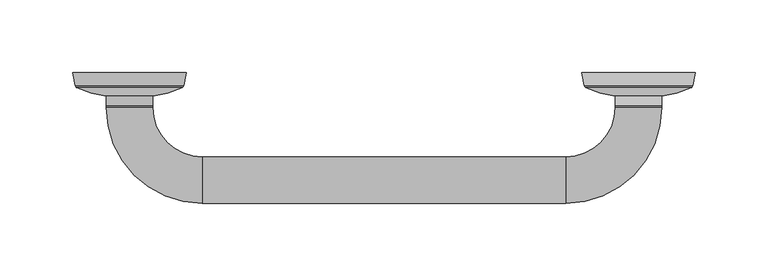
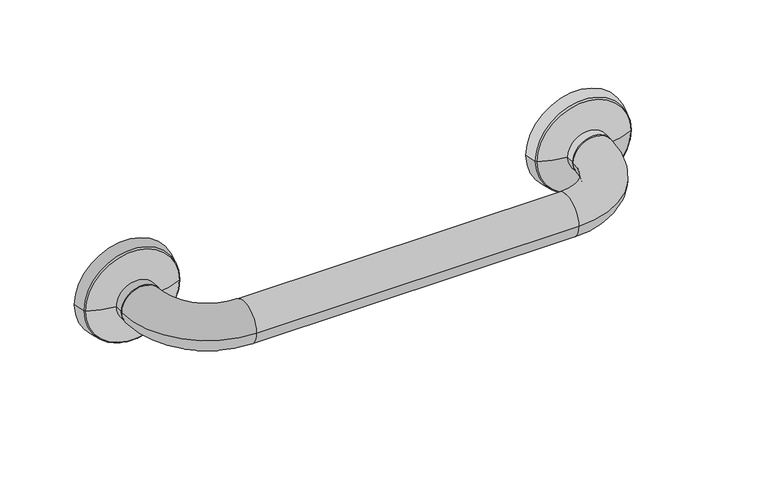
"""IFC4 building model written with IfcOpenShell, lengths in millimetres: proxy geometry, Grab Rail_Metlam_Straight_Horizontal : 382long x 90d x 32h (ML328SS)."""

from ifc_helpers import new_model, si_unit, point, frame, origin, place, context, project, spatial, polyline, circle_curve, ellipse_curve, trimmed, source, transform, mapped, element, save
from ifc_brep_helpers import plane_surface, cylinder_surface, revolved_surface, advanced_brep


def specialty_equipment_1621b8f0(model_context):
    return source(origin(), model_context, "Body", "AdvancedBrep", [
        advanced_brep(
        [(89.0, -58.0, 784.0), (55.0, -24.0, 784.0), (23.0, -24.0, 784.0), (89.0, -90.0, 784.0), (339.0, -90.0, 784.0), (339.0, -58.0, 784.0), (405.0, -24.0, 784.0), (373.0, -24.0, 784.0), (55.0, -23.0, 784.0), (23.0, -23.0, 784.0), (405.0, -23.0, 784.0), (373.0, -23.0, 784.0), (0.0, 0.0, 784.0), (78.0, 0.0, 784.0), (76.1870729, -9.0646354, 784.0), (1.8129271, -9.0646354, 784.0), (2.8615925, -10.4521085, 784.0), (75.1384075, -10.4521085, 784.0), (55.0, -16.0065539, 784.0), (23.0, -16.0065539, 784.0), (39.0, 0.0, 784.0), (428.0, 0.0, 784.0), (350.0, 0.0, 784.0), (389.0, 0.0, 784.0), (426.1870729, -9.0646354, 784.0), (351.8129271, -9.0646354, 784.0), (405.0, -16.0065539, 784.0), (373.0, -16.0065539, 784.0), (352.8615925, -10.4521085, 784.0), (425.1384075, -10.4521085, 784.0)],
        [
            (0, 1, circle_curve(frame((89.0, -24.0, 784.0), z_axis=(0.0, 0.0, -1.0), x_axis=(-1.0, 0.0, 0.0)), 34.0)),
            (1, 2, circle_curve(frame((39.0, -24.0, 784.0), z_axis=(0.0, -1.0, 0.0), x_axis=(1.0, 0.0, 0.0)), 16.0)),
            (2, 3, circle_curve(frame((89.0, -24.0, 784.0), z_axis=(0.0, 0.0, 1.0), x_axis=(-1.0, 0.0, 0.0)), 66.0)),
            (3, 0, circle_curve(frame((89.0, -74.0, 784.0), z_axis=(-1.0, 1.825290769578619e-12, 0.0), x_axis=(1.825290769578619e-12, 1.0, 0.0)), 16.0)),
            (0, 3, circle_curve(frame((89.0, -74.0, 784.0), z_axis=(-1.0, 3.5350342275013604e-12, 0.0), x_axis=(3.5350342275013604e-12, 1.0, 0.0)), 16.0)),
            (2, 1, circle_curve(frame((39.0, -24.0, 784.0), z_axis=(0.0, -1.0, 0.0), x_axis=(1.0, 0.0, 0.0)), 16.0)),
            (3, 4),
            (4, 5, circle_curve(frame((339.0, -74.0, 784.0), z_axis=(-1.0, 0.0, 0.0), x_axis=(0.0, 1.0, 0.0)), 16.0)),
            (5, 0),
            (5, 4, circle_curve(frame((339.0, -74.0, 784.0), z_axis=(-1.0, 0.0, 0.0), x_axis=(0.0, 1.0, 0.0)), 16.0)),
            (4, 6, circle_curve(frame((339.0, -24.0, 784.0), z_axis=(0.0, 0.0, 1.0), x_axis=(0.0, -1.0, 0.0)), 66.0)),
            (6, 7, circle_curve(frame((389.0, -24.0, 784.0), z_axis=(0.0, -1.0, 0.0), x_axis=(-1.0, 0.0, 0.0)), 16.0)),
            (7, 5, circle_curve(frame((339.0, -24.0, 784.0), z_axis=(0.0, 0.0, -1.0), x_axis=(0.0, -1.0, 0.0)), 34.0)),
            (7, 6, circle_curve(frame((389.0, -24.0, 784.0), z_axis=(0.0, -1.0, 0.0), x_axis=(-1.0, 0.0, 0.0)), 16.0)),
            (1, 8),
            (8, 9, circle_curve(frame((39.0, -23.0, 784.0), z_axis=(0.0, -1.0, 0.0), x_axis=(1.0, 0.0, 0.0)), 16.0)),
            (9, 2),
            (9, 8, circle_curve(frame((39.0, -23.0, 784.0), z_axis=(0.0, -1.0, 0.0), x_axis=(1.0, 0.0, 0.0)), 16.0)),
            (6, 10),
            (10, 11, circle_curve(frame((389.0, -23.0, 784.0), z_axis=(0.0, -1.0, 0.0), x_axis=(-1.0, 0.0, 0.0)), 16.0)),
            (11, 7),
            (11, 10, circle_curve(frame((389.0, -23.0, 784.0), z_axis=(0.0, -1.0, 0.0), x_axis=(-1.0, 0.0, 0.0)), 16.0)),
            (12, 13, circle_curve(frame((39.0, 0.0, 784.0), z_axis=(0.0, -1.0, 0.0), x_axis=(1.0, 0.0, 0.0)), 39.0)),
            (13, 14),
            (14, 15, circle_curve(frame((39.0, -9.0646354, 784.0), z_axis=(0.0, 1.0, 0.0), x_axis=(1.0, 0.0, 0.0)), 37.1870729)),
            (15, 12),
            (13, 12, circle_curve(frame((39.0, 0.0, 784.0), z_axis=(0.0, -1.0, 0.0), x_axis=(1.0, 0.0, 0.0)), 39.0)),
            (15, 14, circle_curve(frame((39.0, -9.0646354, 784.0), z_axis=(0.0, 1.0, 0.0), x_axis=(1.0, 0.0, 0.0)), 37.1870729)),
            (16, 17, circle_curve(frame((39.0, -10.4521085, 784.0), z_axis=(0.0, -1.0, 0.0), x_axis=(1.0, 0.0, 0.0)), 36.1384075)),
            (17, 18, circle_curve(frame((51.6887092, 35.2834961, 784.0), z_axis=(0.0, 0.0, -1.0), x_axis=(-1.0, 0.0, 0.0)), 51.3968275)),
            (18, 19, circle_curve(frame((39.0, -16.0065539, 784.0), z_axis=(0.0, 1.0, 0.0), x_axis=(1.0, 0.0, 0.0)), 16.0)),
            (19, 16, circle_curve(frame((26.3112908, 35.2834961, 784.0), z_axis=(0.0, 0.0, -1.0), x_axis=(1.0, 0.0, 0.0)), 51.3968275)),
            (17, 16, circle_curve(frame((39.0, -10.4521085, 784.0), z_axis=(0.0, -1.0, 0.0), x_axis=(1.0, 0.0, 0.0)), 36.1384075)),
            (19, 18, circle_curve(frame((39.0, -16.0065539, 784.0), z_axis=(0.0, 1.0, 0.0), x_axis=(1.0, 0.0, 0.0)), 16.0)),
            (18, 8),
            (9, 19),
            (12, 20),
            (20, 13),
            (14, 17, circle_curve(frame((74.2259116, -8.6724031, 784.0), z_axis=(0.0, 0.0, -1.0), x_axis=(-1.0, 0.0, 0.0)), 2.0)),
            (16, 15, circle_curve(frame((3.7740884, -8.6724031, 784.0), z_axis=(0.0, 0.0, -1.0), x_axis=(1.0, 0.0, 0.0)), 2.0)),
            (21, 22, circle_curve(frame((389.0, 0.0, 784.0), z_axis=(0.0, 1.0, 0.0), x_axis=(-1.0, 0.0, 0.0)), 39.0)),
            (22, 23),
            (23, 21),
            (22, 21, circle_curve(frame((389.0, 0.0, 784.0), z_axis=(0.0, 1.0, 0.0), x_axis=(-1.0, 0.0, 0.0)), 39.0)),
            (21, 24),
            (24, 25, circle_curve(frame((389.0, -9.0646354, 784.0), z_axis=(0.0, 1.0, 0.0), x_axis=(-1.0, 0.0, 0.0)), 37.1870729)),
            (25, 22),
            (25, 24, circle_curve(frame((389.0, -9.0646354, 784.0), z_axis=(0.0, 1.0, 0.0), x_axis=(-1.0, 0.0, 0.0)), 37.1870729)),
            (26, 27, circle_curve(frame((389.0, -16.0065539, 784.0), z_axis=(0.0, 1.0, 0.0), x_axis=(-1.0, 0.0, 0.0)), 16.0)),
            (27, 28, circle_curve(frame((376.3112908, 35.2834961, 784.0), z_axis=(0.0, 0.0, -1.0), x_axis=(-1.0, 0.0, 0.0)), 51.3968275)),
            (28, 29, circle_curve(frame((389.0, -10.4521085, 784.0), z_axis=(0.0, -1.0, 0.0), x_axis=(-1.0, 0.0, 0.0)), 36.1384075)),
            (29, 26, circle_curve(frame((401.6887092, 35.2834961, 784.0), z_axis=(0.0, 0.0, -1.0), x_axis=(1.0, 0.0, 0.0)), 51.3968275)),
            (27, 26, circle_curve(frame((389.0, -16.0065539, 784.0), z_axis=(0.0, 1.0, 0.0), x_axis=(-1.0, 0.0, 0.0)), 16.0)),
            (29, 28, circle_curve(frame((389.0, -10.4521085, 784.0), z_axis=(0.0, -1.0, 0.0), x_axis=(-1.0, 0.0, 0.0)), 36.1384075)),
            (26, 10),
            (11, 27),
            (24, 29, circle_curve(frame((424.2259116, -8.6724031, 784.0), z_axis=(0.0, 0.0, -1.0), x_axis=(1.0, 0.0, 0.0)), 2.0)),
            (28, 25, circle_curve(frame((353.7740884, -8.6724031, 784.0), z_axis=(0.0, 0.0, -1.0), x_axis=(-1.0, 0.0, 0.0)), 2.0)),
        ],
        [
            revolved_surface(trimmed(ellipse_curve(frame((39.0, -24.0, 784.0), z_axis=(0.0, 1.0, 0.0), x_axis=(1.0, 0.0, 0.0)), 16.0, 16.0), [point((23.0, -24.0, 784.0))], [point((55.0, -24.0, 784.0))], True, "CARTESIAN"), (89.0, -24.0, 784.0), (0.0, 0.0, 1.0)),
            revolved_surface(trimmed(ellipse_curve(frame((39.0, -24.0, 784.0), z_axis=(0.0, 1.0, 0.0), x_axis=(1.0, 0.0, 0.0)), 16.0, 16.0), [point((55.0, -24.0, 784.0))], [point((23.0, -24.0, 784.0))], True, "CARTESIAN"), (89.0, -24.0, 784.0), (0.0, 0.0, 1.0)),
            cylinder_surface(frame((89.0, -74.0, 784.0), z_axis=(-1.0, 0.0, 0.0), x_axis=(0.0, 1.0, 0.0)), 16.0),
            revolved_surface(trimmed(ellipse_curve(frame((339.0, -74.0, 784.0), z_axis=(-1.0, 0.0, 0.0), x_axis=(0.0, 1.0, 0.0)), 16.0, 16.0), [point((339.0, -90.0, 784.0))], [point((339.0, -58.0, 784.0))], True, "CARTESIAN"), (339.0, -24.0, 784.0), (0.0, 0.0, 1.0)),
            revolved_surface(trimmed(ellipse_curve(frame((339.0, -74.0, 784.0), z_axis=(-1.0, 0.0, 0.0), x_axis=(0.0, 1.0, 0.0)), 16.0, 16.0), [point((339.0, -58.0, 784.0))], [point((339.0, -90.0, 784.0))], True, "CARTESIAN"), (339.0, -24.0, 784.0), (0.0, 0.0, 1.0)),
            cylinder_surface(frame((39.0, -23.0, 784.0), z_axis=(0.0, 1.0, 0.0), x_axis=(1.0, 0.0, 0.0)), 16.0),
            cylinder_surface(frame((389.0, -24.0, 784.0), z_axis=(0.0, -1.0, 0.0), x_axis=(-1.0, 0.0, 0.0)), 16.0),
            revolved_surface(polyline([(76.1870729, -9.0646354, 784.0), (78.0, 0.0, 784.0)]), (39.0, -10.0, 784.0), (0.0, 1.0, 0.0)),
            revolved_surface(trimmed(ellipse_curve(frame((51.6887092, 35.2834961, 784.0), z_axis=(0.0, 0.0, 1.0), x_axis=(-1.0, 0.0, 0.0)), 51.3968275, 51.3968275), [point((55.0, -16.0065539, 784.0))], [point((75.1384075, -10.4521085, 784.0))], True, "CARTESIAN"), (39.0, -10.0, 784.0), (0.0, 1.0, 0.0)),
            cylinder_surface(frame((39.0, -10.0, 784.0), z_axis=(0.0, 1.0, 0.0), x_axis=(1.0, 0.0, 0.0)), 16.0),
            plane_surface(frame((39.0, 0.0, 784.0), z_axis=(0.0, 1.0, 0.0), x_axis=(1.0, 0.0, 0.0))),
            revolved_surface(trimmed(ellipse_curve(frame((74.2259116, -8.6724031, 784.0), z_axis=(0.0, 0.0, 1.0), x_axis=(-1.0, 0.0, 0.0)), 2.0, 2.0), [point((75.1384075, -10.4521085, 784.0))], [point((76.1870729, -9.0646354, 784.0))], True, "CARTESIAN"), (39.0, -10.0, 784.0), (0.0, 1.0, 0.0)),
            plane_surface(frame((389.0, 0.0, 784.0), z_axis=(0.0, 1.0, 0.0), x_axis=(-1.0, 0.0, 0.0))),
            revolved_surface(polyline([(350.0, 0.0, 784.0), (351.8129271, -9.0646354, 784.0)]), (389.0, -10.0, 784.0), (0.0, -1.0, 0.0)),
            revolved_surface(trimmed(ellipse_curve(frame((376.3112908, 35.2834961, 784.0), z_axis=(0.0, 0.0, 1.0), x_axis=(-1.0, 0.0, 0.0)), 51.3968275, 51.3968275), [point((352.8615925, -10.4521085, 784.0))], [point((373.0, -16.0065539, 784.0))], True, "CARTESIAN"), (389.0, -10.0, 784.0), (0.0, -1.0, 0.0)),
            cylinder_surface(frame((389.0, -10.0, 784.0), z_axis=(0.0, -1.0, 0.0), x_axis=(-1.0, 0.0, 0.0)), 16.0),
            revolved_surface(trimmed(ellipse_curve(frame((353.7740884, -8.6724031, 784.0), z_axis=(0.0, 0.0, 1.0), x_axis=(-1.0, 0.0, 0.0)), 2.0, 2.0), [point((351.8129271, -9.0646354, 784.0))], [point((352.8615925, -10.4521085, 784.0))], True, "CARTESIAN"), (389.0, -10.0, 784.0), (0.0, -1.0, 0.0)),
        ],
        [
            (0, [[1, 2, 3, 4]]),
            (1, [[-1, 5, -3, 6]]),
            (2, [[-4, 7, 8, 9]]),
            (2, [[-5, -9, 10, -7]]),
            (3, [[-8, 11, 12, 13]]),
            (4, [[-10, -13, 14, -11]]),
            (5, [[-2, 15, 16, 17]]),
            (5, [[-6, -17, 18, -15]]),
            (6, [[-12, 19, 20, 21]]),
            (6, [[-14, -21, 22, -19]]),
            (7, [[23, 24, 25, 26]]),
            (7, [[-24, 27, -26, 28]]),
            (8, [[29, 30, 31, 32]]),
            (8, [[-30, 33, -32, 34]]),
            (9, [[-31, 35, -18, 36]]),
            (9, [[-34, -36, -16, -35]]),
            (10, [[-23, 37, 38]]),
            (10, [[-27, -38, -37]]),
            (11, [[-25, 39, -29, 40]]),
            (11, [[-28, -40, -33, -39]]),
            (12, [[41, 42, 43]]),
            (12, [[-42, 44, -43]]),
            (13, [[-41, 45, 46, 47]]),
            (13, [[-44, -47, 48, -45]]),
            (14, [[49, 50, 51, 52]]),
            (14, [[-50, 53, -52, 54]]),
            (15, [[-49, 55, -22, 56]]),
            (15, [[-53, -56, -20, -55]]),
            (16, [[-46, 57, -51, 58]]),
            (16, [[-48, -58, -54, -57]]),
        ],
    ),
    ])


if __name__ == "__main__":
    model = new_model("IFC4")
    model_context = context("Model", 3, world=origin())
    ifc_project = project(units=[si_unit("LENGTHUNIT", "METRE", prefix="MILLI")], contexts=[model_context])
    site = spatial("IfcSite", under=ifc_project)
    building = spatial("IfcBuilding", under=site)
    placement = place(None, origin())
    specialty_equipment_shape = specialty_equipment_1621b8f0(model_context)
    element("IfcBuildingElementProxy", 1, Name="Grab Rail_Metlam_Straight_Horizontal : 382long x 90d x 32h (ML328SS)", ObjectType="Grab Rail_Metlam_Straight_Horizontal : 382long x 90d x 32h (ML328SS)", at=placement, inside=building, context=model_context, shape_type="MappedRepresentation", body=[
        mapped(specialty_equipment_shape, transform((0.0, 0.0, 0.0), x_axis=(1.0, 0.0, 0.0), y_axis=(0.0, 1.0, 0.0), z_axis=(0.0, 0.0, 1.0))),
    ])
    save(model, "model.ifc")
